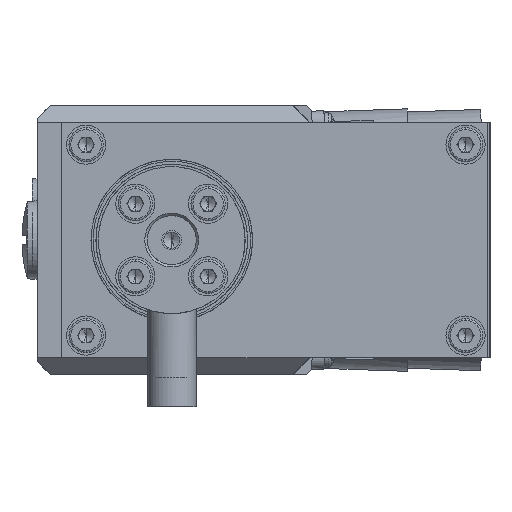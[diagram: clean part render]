
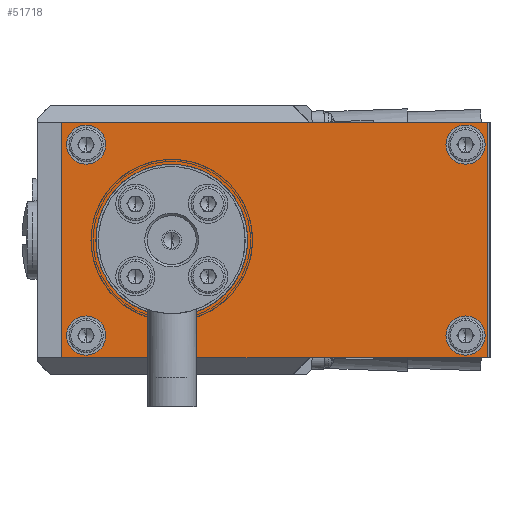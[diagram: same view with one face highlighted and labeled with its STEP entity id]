
A CAD part, left-side view. The second image highlights one B-rep face of the part: STEP entity #51718.
In plain terms, the highlighted planar face has unit normal (-1, 0, 0).
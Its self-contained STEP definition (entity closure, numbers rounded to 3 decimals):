
#459 = ORIENTED_EDGE ( 'NONE', *, *, #16368, .T. ) ;
#1247 = EDGE_CURVE ( 'NONE', #6850, #56468, #37466, .T. ) ;
#2055 = CIRCLE ( 'NONE', #5739, 4. ) ;
#2400 = LINE ( 'NONE', #58963, #23712 ) ;
#3522 = EDGE_LOOP ( 'NONE', ( #40389, #58381 ) ) ;
#3707 = VERTEX_POINT ( 'NONE', #39131 ) ;
#3948 = DIRECTION ( 'NONE',  ( 0., 0., 1. ) ) ;
#4169 = AXIS2_PLACEMENT_3D ( 'NONE', #25752, #55128, #59648 ) ;
#4268 = VERTEX_POINT ( 'NONE', #10349 ) ;
#4639 = EDGE_LOOP ( 'NONE', ( #50963, #8240 ) ) ;
#5564 = FACE_BOUND ( 'NONE', #46204, .T. ) ;
#5714 = ORIENTED_EDGE ( 'NONE', *, *, #11666, .F. ) ;
#5739 = AXIS2_PLACEMENT_3D ( 'NONE', #53322, #48716, #23882 ) ;
#6850 = VERTEX_POINT ( 'NONE', #51947 ) ;
#7475 = CARTESIAN_POINT ( 'NONE',  ( -106.001, 54.379, 41.182 ) ) ;
#8240 = ORIENTED_EDGE ( 'NONE', *, *, #1247, .F. ) ;
#8729 = VERTEX_POINT ( 'NONE', #26414 ) ;
#10349 = CARTESIAN_POINT ( 'NONE',  ( -106.001, 36.879, 37.182 ) ) ;
#10704 = VERTEX_POINT ( 'NONE', #52043 ) ;
#10981 = CARTESIAN_POINT ( 'NONE',  ( -106.001, -27.621, -2.318 ) ) ;
#11666 = EDGE_CURVE ( 'NONE', #10704, #3707, #18497, .T. ) ;
#12221 = AXIS2_PLACEMENT_3D ( 'NONE', #36845, #12412, #46436 ) ;
#12314 = DIRECTION ( 'NONE',  ( 0., -1., 0. ) ) ;
#12412 = DIRECTION ( 'NONE',  ( -1., 0., 0. ) ) ;
#12601 = CIRCLE ( 'NONE', #28633, 4. ) ;
#12828 = AXIS2_PLACEMENT_3D ( 'NONE', #34429, #58377, #38671 ) ;
#13654 = CIRCLE ( 'NONE', #14408, 15.5 ) ;
#14408 = AXIS2_PLACEMENT_3D ( 'NONE', #16657, #50576, #55650 ) ;
#14596 = ORIENTED_EDGE ( 'NONE', *, *, #46911, .F. ) ;
#14885 = LINE ( 'NONE', #55808, #15627 ) ;
#14942 = VECTOR ( 'NONE', #22754, 1000. ) ;
#15357 = AXIS2_PLACEMENT_3D ( 'NONE', #19596, #28990, #53484 ) ;
#15627 = VECTOR ( 'NONE', #12314, 1000. ) ;
#16318 = CARTESIAN_POINT ( 'NONE',  ( -106.001, -23.121, 41.182 ) ) ;
#16368 = EDGE_CURVE ( 'NONE', #33142, #25700, #14885, .T. ) ;
#16657 = CARTESIAN_POINT ( 'NONE',  ( -106.001, 36.879, 21.682 ) ) ;
#18077 = CARTESIAN_POINT ( 'NONE',  ( -106.001, -27.621, 45.682 ) ) ;
#18390 = ORIENTED_EDGE ( 'NONE', *, *, #52705, .T. ) ;
#18497 = CIRCLE ( 'NONE', #34048, 4. ) ;
#19391 = CARTESIAN_POINT ( 'NONE',  ( -106.001, 54.379, 45.182 ) ) ;
#19596 = CARTESIAN_POINT ( 'NONE',  ( -106.001, 36.879, 21.682 ) ) ;
#20132 = DIRECTION ( 'NONE',  ( 0., 0., 1. ) ) ;
#20602 = EDGE_CURVE ( 'NONE', #31447, #33142, #45837, .T. ) ;
#20868 = EDGE_CURVE ( 'NONE', #3707, #10704, #47295, .T. ) ;
#21613 = DIRECTION ( 'NONE',  ( 0., 0., -1. ) ) ;
#21812 = VERTEX_POINT ( 'NONE', #44753 ) ;
#21973 = ORIENTED_EDGE ( 'NONE', *, *, #24024, .F. ) ;
#22602 = CIRCLE ( 'NONE', #15357, 15.5 ) ;
#22754 = DIRECTION ( 'NONE',  ( 0., 0., 1. ) ) ;
#22851 = ORIENTED_EDGE ( 'NONE', *, *, #48391, .F. ) ;
#23295 = LINE ( 'NONE', #18077, #14942 ) ;
#23712 = VECTOR ( 'NONE', #29534, 1000. ) ;
#23882 = DIRECTION ( 'NONE',  ( 0., 0., 1. ) ) ;
#24024 = EDGE_CURVE ( 'NONE', #41577, #8729, #25066, .T. ) ;
#24289 = DIRECTION ( 'NONE',  ( 0., 0., 1. ) ) ;
#24820 = CARTESIAN_POINT ( 'NONE',  ( -106.001, -23.121, 41.182 ) ) ;
#24897 = EDGE_LOOP ( 'NONE', ( #21973, #55613 ) ) ;
#25066 = CIRCLE ( 'NONE', #25971, 4. ) ;
#25700 = VERTEX_POINT ( 'NONE', #10981 ) ;
#25752 = CARTESIAN_POINT ( 'NONE',  ( -106.001, 54.379, 2.182 ) ) ;
#25971 = AXIS2_PLACEMENT_3D ( 'NONE', #34447, #58814, #24289 ) ;
#26414 = CARTESIAN_POINT ( 'NONE',  ( -106.001, 54.379, -1.818 ) ) ;
#27303 = VERTEX_POINT ( 'NONE', #29603 ) ;
#28633 = AXIS2_PLACEMENT_3D ( 'NONE', #7475, #31531, #60546 ) ;
#28713 = CARTESIAN_POINT ( 'NONE',  ( -106.001, -23.121, 6.182 ) ) ;
#28990 = DIRECTION ( 'NONE',  ( -1., 0., 0. ) ) ;
#29179 = FACE_BOUND ( 'NONE', #51363, .T. ) ;
#29403 = ORIENTED_EDGE ( 'NONE', *, *, #20868, .F. ) ;
#29534 = DIRECTION ( 'NONE',  ( 0., 1., 0. ) ) ;
#29603 = CARTESIAN_POINT ( 'NONE',  ( -106.001, 36.879, 6.182 ) ) ;
#29928 = DIRECTION ( 'NONE',  ( -1., 0., 0. ) ) ;
#30817 = DIRECTION ( 'NONE',  ( 0., 0., 1. ) ) ;
#31447 = VERTEX_POINT ( 'NONE', #55688 ) ;
#31531 = DIRECTION ( 'NONE',  ( -1., 0., 0. ) ) ;
#32859 = CARTESIAN_POINT ( 'NONE',  ( -106.001, -23.121, 2.182 ) ) ;
#32934 = VECTOR ( 'NONE', #21613, 1000. ) ;
#33142 = VERTEX_POINT ( 'NONE', #62828 ) ;
#34048 = AXIS2_PLACEMENT_3D ( 'NONE', #16318, #54484, #30817 ) ;
#34429 = CARTESIAN_POINT ( 'NONE',  ( -106.001, -27.621, -2.318 ) ) ;
#34444 = FACE_BOUND ( 'NONE', #4639, .T. ) ;
#34447 = CARTESIAN_POINT ( 'NONE',  ( -106.001, 54.379, 2.182 ) ) ;
#34633 = PLANE ( 'NONE',  #12828 ) ;
#35569 = AXIS2_PLACEMENT_3D ( 'NONE', #32859, #52703, #3948 ) ;
#36674 = CIRCLE ( 'NONE', #12221, 4. ) ;
#36845 = CARTESIAN_POINT ( 'NONE',  ( -106.001, -23.121, 2.182 ) ) ;
#37466 = CIRCLE ( 'NONE', #35569, 4. ) ;
#38671 = DIRECTION ( 'NONE',  ( 0., 0., -1. ) ) ;
#39131 = CARTESIAN_POINT ( 'NONE',  ( -106.001, -23.121, 45.182 ) ) ;
#40127 = EDGE_LOOP ( 'NONE', ( #59412, #18390, #48625, #459 ) ) ;
#40389 = ORIENTED_EDGE ( 'NONE', *, *, #54675, .F. ) ;
#41577 = VERTEX_POINT ( 'NONE', #62815 ) ;
#42780 = FACE_BOUND ( 'NONE', #3522, .T. ) ;
#43011 = CARTESIAN_POINT ( 'NONE',  ( -106.001, 54.379, 37.182 ) ) ;
#44753 = CARTESIAN_POINT ( 'NONE',  ( -106.001, -27.621, 45.682 ) ) ;
#45837 = LINE ( 'NONE', #51308, #32934 ) ;
#46204 = EDGE_LOOP ( 'NONE', ( #29403, #5714 ) ) ;
#46436 = DIRECTION ( 'NONE',  ( 0., 0., 1. ) ) ;
#46911 = EDGE_CURVE ( 'NONE', #58005, #55251, #2055, .T. ) ;
#47295 = CIRCLE ( 'NONE', #54122, 4. ) ;
#48391 = EDGE_CURVE ( 'NONE', #55251, #58005, #12601, .T. ) ;
#48625 = ORIENTED_EDGE ( 'NONE', *, *, #20602, .T. ) ;
#48716 = DIRECTION ( 'NONE',  ( -1., 0., 0. ) ) ;
#50337 = FACE_OUTER_BOUND ( 'NONE', #40127, .T. ) ;
#50576 = DIRECTION ( 'NONE',  ( -1., 0., 0. ) ) ;
#50963 = ORIENTED_EDGE ( 'NONE', *, *, #58803, .F. ) ;
#51308 = CARTESIAN_POINT ( 'NONE',  ( -106.001, 59.379, -2.318 ) ) ;
#51363 = EDGE_LOOP ( 'NONE', ( #14596, #22851 ) ) ;
#51718 = ADVANCED_FACE ( 'NONE', ( #58703, #34444, #29179, #5564, #42780, #50337 ), #34633, .F. ) ;
#51947 = CARTESIAN_POINT ( 'NONE',  ( -106.001, -23.121, -1.818 ) ) ;
#52043 = CARTESIAN_POINT ( 'NONE',  ( -106.001, -23.121, 37.182 ) ) ;
#52703 = DIRECTION ( 'NONE',  ( -1., 0., 0. ) ) ;
#52705 = EDGE_CURVE ( 'NONE', #21812, #31447, #2400, .T. ) ;
#53322 = CARTESIAN_POINT ( 'NONE',  ( -106.001, 54.379, 41.182 ) ) ;
#53484 = DIRECTION ( 'NONE',  ( 0., 0., 1. ) ) ;
#54122 = AXIS2_PLACEMENT_3D ( 'NONE', #24820, #29928, #20132 ) ;
#54484 = DIRECTION ( 'NONE',  ( -1., 0., 0. ) ) ;
#54675 = EDGE_CURVE ( 'NONE', #4268, #27303, #22602, .T. ) ;
#55128 = DIRECTION ( 'NONE',  ( -1., 0., 0. ) ) ;
#55251 = VERTEX_POINT ( 'NONE', #43011 ) ;
#55613 = ORIENTED_EDGE ( 'NONE', *, *, #59184, .F. ) ;
#55650 = DIRECTION ( 'NONE',  ( 0., 0., 1. ) ) ;
#55688 = CARTESIAN_POINT ( 'NONE',  ( -106.001, 59.379, 45.682 ) ) ;
#55808 = CARTESIAN_POINT ( 'NONE',  ( -106.001, -27.621, -2.318 ) ) ;
#56327 = EDGE_CURVE ( 'NONE', #25700, #21812, #23295, .T. ) ;
#56468 = VERTEX_POINT ( 'NONE', #28713 ) ;
#58005 = VERTEX_POINT ( 'NONE', #19391 ) ;
#58377 = DIRECTION ( 'NONE',  ( 1., 0., 0. ) ) ;
#58381 = ORIENTED_EDGE ( 'NONE', *, *, #60731, .F. ) ;
#58703 = FACE_BOUND ( 'NONE', #24897, .T. ) ;
#58803 = EDGE_CURVE ( 'NONE', #56468, #6850, #36674, .T. ) ;
#58814 = DIRECTION ( 'NONE',  ( -1., 0., 0. ) ) ;
#58963 = CARTESIAN_POINT ( 'NONE',  ( -106.001, 59.379, 45.682 ) ) ;
#59184 = EDGE_CURVE ( 'NONE', #8729, #41577, #59400, .T. ) ;
#59400 = CIRCLE ( 'NONE', #4169, 4. ) ;
#59412 = ORIENTED_EDGE ( 'NONE', *, *, #56327, .T. ) ;
#59648 = DIRECTION ( 'NONE',  ( 0., 0., 1. ) ) ;
#60546 = DIRECTION ( 'NONE',  ( 0., 0., 1. ) ) ;
#60731 = EDGE_CURVE ( 'NONE', #27303, #4268, #13654, .T. ) ;
#62815 = CARTESIAN_POINT ( 'NONE',  ( -106.001, 54.379, 6.182 ) ) ;
#62828 = CARTESIAN_POINT ( 'NONE',  ( -106.001, 59.379, -2.318 ) ) ;
